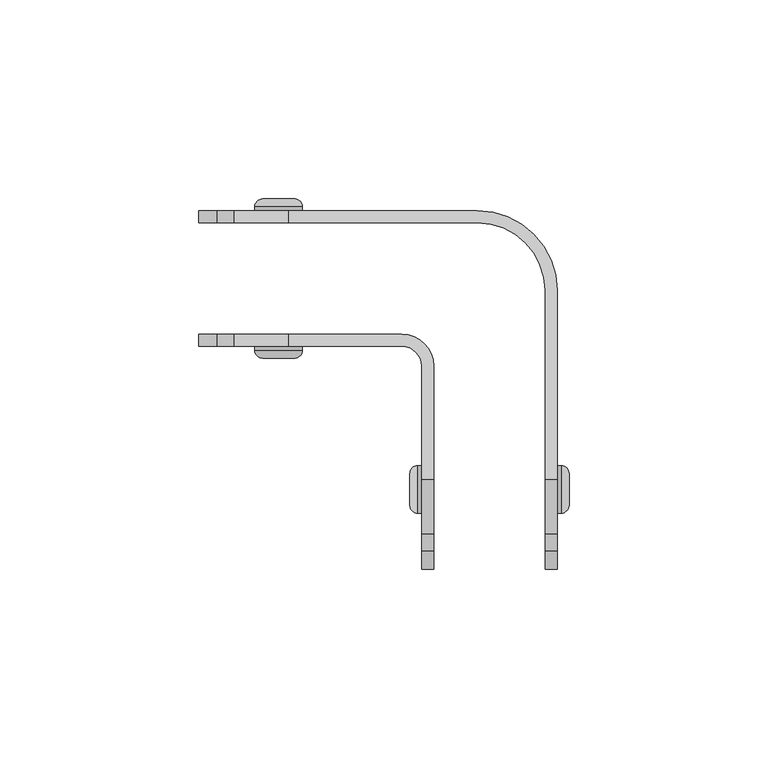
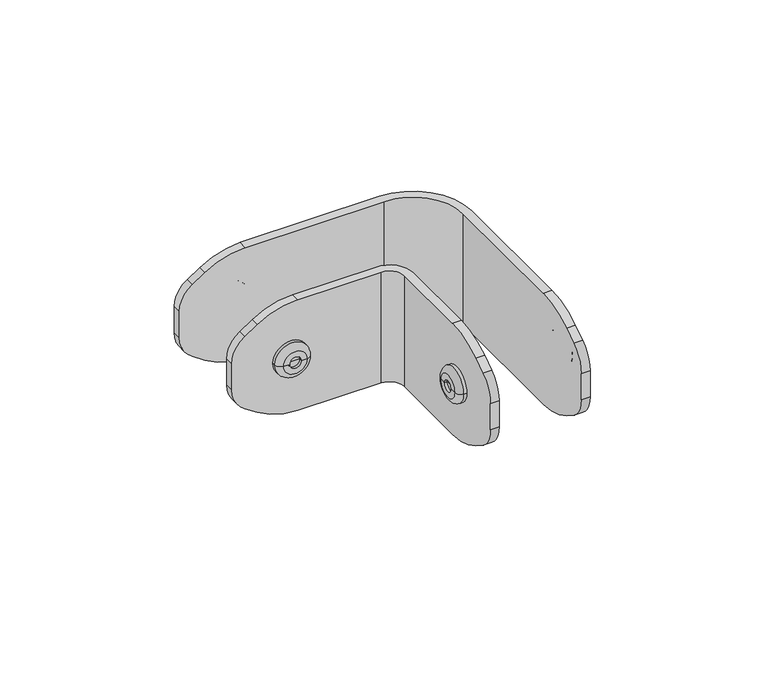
"""IFC4 building model written with IfcOpenShell, lengths in millimetres: furniture geometry, DBLTD_Sixteen3_PrivacyScreens_Artus_Bracket : 90° Corner Link."""

from ifc_helpers import new_model, si_unit, point, frame, origin, place, context, project, spatial, polyline, circle_curve, ellipse_curve, trimmed, source, transform, mapped, element, save
from ifc_brep_helpers import plane_surface, cylinder_surface, revolved_surface, advanced_brep


def furniture_77d4a9f0(model_context):
    return source(origin(), model_context, "Body", "AdvancedBrep", [
        advanced_brep(
        [(17.0, -867.0, 100.0), (17.9858199, -867.0, 100.0), (17.9858199, -879.0, 100.0), (17.0, -879.0, 100.0), (17.0, -873.0, 100.0), (19.0, -871.0, 100.0), (19.0, -873.0, 100.0), (19.0, -875.0, 100.0), (20.0, -871.0, 100.0), (20.0, -875.0, 100.0), (20.0, -869.0141801, 100.0), (20.0, -876.9858199, 100.0)],
        [
            (0, 1),
            (1, 2, circle_curve(frame((17.9858199, -873.0, 100.0), z_axis=(-1.0, 0.0, 0.0), x_axis=(0.0, -1.0, 0.0)), 6.0)),
            (2, 3),
            (3, 0, circle_curve(frame((17.0, -873.0, 100.0), z_axis=(1.0, 0.0, 0.0), x_axis=(0.0, -1.0, 0.0)), 6.0)),
            (2, 1, circle_curve(frame((17.9858199, -873.0, 100.0), z_axis=(-1.0, 0.0, 0.0), x_axis=(0.0, -1.0, 0.0)), 6.0)),
            (0, 3, circle_curve(frame((17.0, -873.0, 100.0), z_axis=(1.0, 0.0, 0.0), x_axis=(0.0, -1.0, 0.0)), 6.0)),
            (4, 0),
            (3, 4),
            (5, 6),
            (6, 7),
            (7, 5, circle_curve(frame((19.0, -873.0, 100.0), z_axis=(1.0, 0.0, 0.0), x_axis=(0.0, -1.0, 0.0)), 2.0)),
            (5, 7, circle_curve(frame((19.0, -873.0, 100.0), z_axis=(1.0, 0.0, 0.0), x_axis=(0.0, -1.0, 0.0)), 2.0)),
            (8, 5),
            (7, 9),
            (9, 8, circle_curve(frame((20.0, -873.0, 100.0), z_axis=(1.0, 0.0, 0.0), x_axis=(0.0, -1.0, 0.0)), 2.0)),
            (8, 9, circle_curve(frame((20.0, -873.0, 100.0), z_axis=(1.0, 0.0, 0.0), x_axis=(0.0, -1.0, 0.0)), 2.0)),
            (10, 8),
            (9, 11),
            (11, 10, circle_curve(frame((20.0, -873.0, 100.0), z_axis=(1.0, 0.0, 0.0), x_axis=(0.0, -1.0, 0.0)), 3.9858199)),
            (10, 11, circle_curve(frame((20.0, -873.0, 100.0), z_axis=(1.0, 0.0, 0.0), x_axis=(0.0, -1.0, 0.0)), 3.9858199)),
            (1, 10, circle_curve(frame((17.9858199, -869.0141801, 100.0), z_axis=(0.0, 0.0, -1.0), x_axis=(0.0, -1.0, 0.0)), 2.0141801)),
            (11, 2, circle_curve(frame((17.9858199, -876.9858199, 100.0), z_axis=(0.0, 0.0, -1.0), x_axis=(0.0, 1.0, 0.0)), 2.0141801)),
        ],
        [
            cylinder_surface(frame((18.424474, -873.0, 100.0), z_axis=(-1.0, 0.0, 0.0), x_axis=(0.0, -1.0, 0.0)), 6.0),
            plane_surface(frame((17.0, -873.0, 100.0), z_axis=(-1.0, 0.0, 0.0), x_axis=(0.0, -1.0, 0.0))),
            plane_surface(frame((19.0, -873.0, 100.0), z_axis=(1.0, 0.0, 0.0), x_axis=(0.0, -1.0, 0.0))),
            revolved_surface(polyline([(19.0, -875.0, 100.0), (20.0, -875.0, 100.0)]), (18.424474, -873.0, 100.0), (-1.0, 0.0, 0.0)),
            plane_surface(frame((20.0, -873.0, 100.0), z_axis=(1.0, 0.0, 0.0), x_axis=(0.0, -1.0, 0.0))),
            revolved_surface(trimmed(ellipse_curve(frame((17.9858199, -876.9858199, 100.0), z_axis=(0.0, 0.0, -1.0), x_axis=(0.0, 1.0, 0.0)), 2.0141801, 2.0141801), [point((20.0, -876.9858199, 100.0))], [point((17.9858199, -879.0, 100.0))], True, "CARTESIAN"), (18.424474, -873.0, 100.0), (-1.0, 0.0, 0.0)),
        ],
        [
            (0, [[1, 2, 3, 4]]),
            (0, [[-3, 5, -1, 6]]),
            (1, [[7, -4, 8]]),
            (1, [[-8, -6, -7]]),
            (2, [[9, 10, 11]]),
            (2, [[-10, -9, 12]]),
            (3, [[13, -11, 14, 15]]),
            (3, [[-14, -12, -13, 16]]),
            (4, [[17, -15, 18, 19]]),
            (4, [[-18, -16, -17, 20]]),
            (5, [[21, -19, 22, -2]]),
            (5, [[-22, -20, -21, -5]]),
        ],
    ),
        advanced_brep(
        [(-17.9858199, -867.0, 100.0), (-17.0, -867.0, 100.0), (-17.0, -879.0, 100.0), (-17.9858199, -879.0, 100.0), (-17.0, -873.0, 100.0), (-19.0, -873.0, 100.0), (-19.0, -871.0, 100.0), (-19.0, -875.0, 100.0), (-20.0, -871.0, 100.0), (-20.0, -875.0, 100.0), (-20.0, -869.0141801, 100.0), (-20.0, -876.9858199, 100.0)],
        [
            (0, 1),
            (1, 2, circle_curve(frame((-17.0, -873.0, 100.0), z_axis=(-1.0, 0.0, 0.0), x_axis=(0.0, -1.0, 0.0)), 6.0)),
            (2, 3),
            (3, 0, circle_curve(frame((-17.9858199, -873.0, 100.0), z_axis=(1.0, 0.0, 0.0), x_axis=(0.0, -1.0, 0.0)), 6.0)),
            (2, 1, circle_curve(frame((-17.0, -873.0, 100.0), z_axis=(-1.0, 0.0, 0.0), x_axis=(0.0, -1.0, 0.0)), 6.0)),
            (0, 3, circle_curve(frame((-17.9858199, -873.0, 100.0), z_axis=(1.0, 0.0, 0.0), x_axis=(0.0, -1.0, 0.0)), 6.0)),
            (1, 4),
            (4, 2),
            (5, 6),
            (6, 7, circle_curve(frame((-19.0, -873.0, 100.0), z_axis=(-1.0, 0.0, 0.0), x_axis=(0.0, -1.0, 0.0)), 2.0)),
            (7, 5),
            (7, 6, circle_curve(frame((-19.0, -873.0, 100.0), z_axis=(-1.0, 0.0, 0.0), x_axis=(0.0, -1.0, 0.0)), 2.0)),
            (6, 8),
            (8, 9, circle_curve(frame((-20.0, -873.0, 100.0), z_axis=(-1.0, 0.0, 0.0), x_axis=(0.0, -1.0, 0.0)), 2.0)),
            (9, 7),
            (9, 8, circle_curve(frame((-20.0, -873.0, 100.0), z_axis=(-1.0, 0.0, 0.0), x_axis=(0.0, -1.0, 0.0)), 2.0)),
            (8, 10),
            (10, 11, circle_curve(frame((-20.0, -873.0, 100.0), z_axis=(-1.0, 0.0, 0.0), x_axis=(0.0, -1.0, 0.0)), 3.9858199)),
            (11, 9),
            (11, 10, circle_curve(frame((-20.0, -873.0, 100.0), z_axis=(-1.0, 0.0, 0.0), x_axis=(0.0, -1.0, 0.0)), 3.9858199)),
            (10, 0, circle_curve(frame((-17.9858199, -869.0141801, 100.0), z_axis=(0.0, 0.0, -1.0), x_axis=(0.0, -1.0, 0.0)), 2.0141801)),
            (3, 11, circle_curve(frame((-17.9858199, -876.9858199, 100.0), z_axis=(0.0, 0.0, -1.0), x_axis=(0.0, 1.0, 0.0)), 2.0141801)),
        ],
        [
            cylinder_surface(frame((-18.424474, -873.0, 100.0), z_axis=(-1.0, 0.0, 0.0), x_axis=(0.0, -1.0, 0.0)), 6.0),
            plane_surface(frame((-17.0, -873.0, 100.0), z_axis=(1.0, 0.0, 0.0), x_axis=(0.0, -1.0, 0.0))),
            plane_surface(frame((-19.0, -873.0, 100.0), z_axis=(-1.0, 0.0, 0.0), x_axis=(0.0, -1.0, 0.0))),
            revolved_surface(polyline([(-20.0, -875.0, 100.0), (-19.0, -875.0, 100.0)]), (-18.424474, -873.0, 100.0), (-1.0, 0.0, 0.0)),
            plane_surface(frame((-20.0, -873.0, 100.0), z_axis=(-1.0, 0.0, 0.0), x_axis=(0.0, -1.0, 0.0))),
            revolved_surface(trimmed(ellipse_curve(frame((-17.9858199, -876.9858199, 100.0), z_axis=(0.0, 0.0, -1.0), x_axis=(0.0, 1.0, 0.0)), 2.0141801, 2.0141801), [point((-17.9858199, -879.0, 100.0))], [point((-20.0, -876.9858199, 100.0))], True, "CARTESIAN"), (-18.424474, -873.0, 100.0), (-1.0, 0.0, 0.0)),
        ],
        [
            (0, [[1, 2, 3, 4]]),
            (0, [[-3, 5, -1, 6]]),
            (1, [[7, 8, -2]]),
            (1, [[-8, -7, -5]]),
            (2, [[9, 10, 11]]),
            (2, [[-11, 12, -9]]),
            (3, [[13, 14, 15, -10]]),
            (3, [[-15, 16, -13, -12]]),
            (4, [[17, 18, 19, -14]]),
            (4, [[-19, 20, -17, -16]]),
            (5, [[21, -4, 22, -18]]),
            (5, [[-22, -6, -21, -20]]),
        ],
    ),
        advanced_brep(
        [(-47.0, -802.0141801, 100.0), (-47.0, -803.0, 100.0), (-59.0, -803.0, 100.0), (-59.0, -802.0141801, 100.0), (-53.0, -803.0, 100.0), (-53.0, -801.0, 100.0), (-51.0, -801.0, 100.0), (-55.0, -801.0, 100.0), (-51.0, -800.0, 100.0), (-55.0, -800.0, 100.0), (-49.0141801, -800.0, 100.0), (-56.9858199, -800.0, 100.0)],
        [
            (0, 1),
            (1, 2, circle_curve(frame((-53.0, -803.0, 100.0), z_axis=(0.0, 1.0, 0.0), x_axis=(-1.0, 0.0, 0.0)), 6.0)),
            (2, 3),
            (3, 0, circle_curve(frame((-53.0, -802.0141801, 100.0), z_axis=(0.0, -1.0, 0.0), x_axis=(-1.0, 0.0, 0.0)), 6.0)),
            (2, 1, circle_curve(frame((-53.0, -803.0, 100.0), z_axis=(0.0, 1.0, 0.0), x_axis=(-1.0, 0.0, 0.0)), 6.0)),
            (0, 3, circle_curve(frame((-53.0, -802.0141801, 100.0), z_axis=(0.0, -1.0, 0.0), x_axis=(-1.0, 0.0, 0.0)), 6.0)),
            (1, 4),
            (4, 2),
            (5, 6),
            (6, 7, circle_curve(frame((-53.0, -801.0, 100.0), z_axis=(0.0, 1.0, 0.0), x_axis=(-1.0, 0.0, 0.0)), 2.0)),
            (7, 5),
            (7, 6, circle_curve(frame((-53.0, -801.0, 100.0), z_axis=(0.0, 1.0, 0.0), x_axis=(-1.0, 0.0, 0.0)), 2.0)),
            (6, 8),
            (8, 9, circle_curve(frame((-53.0, -800.0, 100.0), z_axis=(0.0, 1.0, 0.0), x_axis=(-1.0, 0.0, 0.0)), 2.0)),
            (9, 7),
            (9, 8, circle_curve(frame((-53.0, -800.0, 100.0), z_axis=(0.0, 1.0, 0.0), x_axis=(-1.0, 0.0, 0.0)), 2.0)),
            (8, 10),
            (10, 11, circle_curve(frame((-53.0, -800.0, 100.0), z_axis=(0.0, 1.0, 0.0), x_axis=(-1.0, 0.0, 0.0)), 3.9858199)),
            (11, 9),
            (11, 10, circle_curve(frame((-53.0, -800.0, 100.0), z_axis=(0.0, 1.0, 0.0), x_axis=(-1.0, 0.0, 0.0)), 3.9858199)),
            (10, 0, circle_curve(frame((-49.0141801, -802.0141801, 100.0), z_axis=(0.0, 0.0, -1.0), x_axis=(-1.0, 0.0, 0.0)), 2.0141801)),
            (3, 11, circle_curve(frame((-56.9858199, -802.0141801, 100.0), z_axis=(0.0, 0.0, -1.0), x_axis=(1.0, 0.0, 0.0)), 2.0141801)),
        ],
        [
            cylinder_surface(frame((-53.0, -801.575526, 100.0), z_axis=(0.0, 1.0, 0.0), x_axis=(-1.0, 0.0, 0.0)), 6.0),
            plane_surface(frame((-53.0, -803.0, 100.0), z_axis=(0.0, -1.0, 0.0), x_axis=(-1.0, 0.0, 0.0))),
            plane_surface(frame((-53.0, -801.0, 100.0), z_axis=(0.0, 1.0, 0.0), x_axis=(-1.0, 0.0, 0.0))),
            revolved_surface(polyline([(-55.0, -800.0, 100.0), (-55.0, -801.0, 100.0)]), (-53.0, -801.575526, 100.0), (0.0, 1.0, 0.0)),
            plane_surface(frame((-53.0, -800.0, 100.0), z_axis=(0.0, 1.0, 0.0), x_axis=(-1.0, 0.0, 0.0))),
            revolved_surface(trimmed(ellipse_curve(frame((-56.9858199, -802.0141801, 100.0), z_axis=(0.0, 0.0, -1.0), x_axis=(1.0, 0.0, 0.0)), 2.0141801, 2.0141801), [point((-59.0, -802.0141801, 100.0))], [point((-56.9858199, -800.0, 100.0))], True, "CARTESIAN"), (-53.0, -801.575526, 100.0), (0.0, 1.0, 0.0)),
        ],
        [
            (0, [[1, 2, 3, 4]]),
            (0, [[-3, 5, -1, 6]]),
            (1, [[7, 8, -2]]),
            (1, [[-8, -7, -5]]),
            (2, [[9, 10, 11]]),
            (2, [[-11, 12, -9]]),
            (3, [[13, 14, 15, -10]]),
            (3, [[-15, 16, -13, -12]]),
            (4, [[17, 18, 19, -14]]),
            (4, [[-19, 20, -17, -16]]),
            (5, [[21, -4, 22, -18]]),
            (5, [[-22, -6, -21, -20]]),
        ],
    ),
        advanced_brep(
        [(-47.0, -837.0, 100.0), (-47.0, -837.9858199, 100.0), (-59.0, -837.9858199, 100.0), (-59.0, -837.0, 100.0), (-53.0, -837.0, 100.0), (-51.0, -839.0, 100.0), (-53.0, -839.0, 100.0), (-55.0, -839.0, 100.0), (-51.0, -840.0, 100.0), (-55.0, -840.0, 100.0), (-49.0141801, -840.0, 100.0), (-56.9858199, -840.0, 100.0)],
        [
            (0, 1),
            (1, 2, circle_curve(frame((-53.0, -837.9858199, 100.0), z_axis=(0.0, 1.0, 0.0), x_axis=(-1.0, 0.0, 0.0)), 6.0)),
            (2, 3),
            (3, 0, circle_curve(frame((-53.0, -837.0, 100.0), z_axis=(0.0, -1.0, 0.0), x_axis=(-1.0, 0.0, 0.0)), 6.0)),
            (2, 1, circle_curve(frame((-53.0, -837.9858199, 100.0), z_axis=(0.0, 1.0, 0.0), x_axis=(-1.0, 0.0, 0.0)), 6.0)),
            (0, 3, circle_curve(frame((-53.0, -837.0, 100.0), z_axis=(0.0, -1.0, 0.0), x_axis=(-1.0, 0.0, 0.0)), 6.0)),
            (4, 0),
            (3, 4),
            (5, 6),
            (6, 7),
            (7, 5, circle_curve(frame((-53.0, -839.0, 100.0), z_axis=(0.0, -1.0, 0.0), x_axis=(-1.0, 0.0, 0.0)), 2.0)),
            (5, 7, circle_curve(frame((-53.0, -839.0, 100.0), z_axis=(0.0, -1.0, 0.0), x_axis=(-1.0, 0.0, 0.0)), 2.0)),
            (8, 5),
            (7, 9),
            (9, 8, circle_curve(frame((-53.0, -840.0, 100.0), z_axis=(0.0, -1.0, 0.0), x_axis=(-1.0, 0.0, 0.0)), 2.0)),
            (8, 9, circle_curve(frame((-53.0, -840.0, 100.0), z_axis=(0.0, -1.0, 0.0), x_axis=(-1.0, 0.0, 0.0)), 2.0)),
            (10, 8),
            (9, 11),
            (11, 10, circle_curve(frame((-53.0, -840.0, 100.0), z_axis=(0.0, -1.0, 0.0), x_axis=(-1.0, 0.0, 0.0)), 3.9858199)),
            (10, 11, circle_curve(frame((-53.0, -840.0, 100.0), z_axis=(0.0, -1.0, 0.0), x_axis=(-1.0, 0.0, 0.0)), 3.9858199)),
            (1, 10, circle_curve(frame((-49.0141801, -837.9858199, 100.0), z_axis=(0.0, 0.0, -1.0), x_axis=(-1.0, 0.0, 0.0)), 2.0141801)),
            (11, 2, circle_curve(frame((-56.9858199, -837.9858199, 100.0), z_axis=(0.0, 0.0, -1.0), x_axis=(1.0, 0.0, 0.0)), 2.0141801)),
        ],
        [
            cylinder_surface(frame((-53.0, -838.424474, 100.0), z_axis=(0.0, 1.0, 0.0), x_axis=(-1.0, 0.0, 0.0)), 6.0),
            plane_surface(frame((-53.0, -837.0, 100.0), z_axis=(0.0, 1.0, 0.0), x_axis=(-1.0, 0.0, 0.0))),
            plane_surface(frame((-53.0, -839.0, 100.0), z_axis=(0.0, -1.0, 0.0), x_axis=(-1.0, 0.0, 0.0))),
            revolved_surface(polyline([(-55.0, -839.0, 100.0), (-55.0, -840.0, 100.0)]), (-53.0, -838.424474, 100.0), (0.0, 1.0, 0.0)),
            plane_surface(frame((-53.0, -840.0, 100.0), z_axis=(0.0, -1.0, 0.0), x_axis=(-1.0, 0.0, 0.0))),
            revolved_surface(trimmed(ellipse_curve(frame((-56.9858199, -837.9858199, 100.0), z_axis=(0.0, 0.0, -1.0), x_axis=(1.0, 0.0, 0.0)), 2.0141801, 2.0141801), [point((-56.9858199, -840.0, 100.0))], [point((-59.0, -837.9858199, 100.0))], True, "CARTESIAN"), (-53.0, -838.424474, 100.0), (0.0, 1.0, 0.0)),
        ],
        [
            (0, [[1, 2, 3, 4]]),
            (0, [[-3, 5, -1, 6]]),
            (1, [[7, -4, 8]]),
            (1, [[-8, -6, -7]]),
            (2, [[9, 10, 11]]),
            (2, [[-10, -9, 12]]),
            (3, [[13, -11, 14, 15]]),
            (3, [[-14, -12, -13, 16]]),
            (4, [[17, -15, 18, 19]]),
            (4, [[-18, -16, -17, 20]]),
            (5, [[21, -19, 22, -2]]),
            (5, [[-22, -20, -21, -5]]),
        ],
    ),
        advanced_brep(
        [(14.0, -823.0, 120.0), (14.0, -870.4306091, 120.0), (17.0, -870.4306091, 120.0), (17.0, -823.0, 120.0), (-3.0, -803.0, 120.0), (-50.4306091, -803.0, 120.0), (-50.4306091, -806.0, 120.0), (-3.0, -806.0, 120.0), (17.0, -823.0, 80.0), (17.0, -870.4306091, 80.0), (14.0, -870.4306091, 80.0), (14.0, -823.0, 80.0), (-3.0, -806.0, 80.0), (-50.4306091, -806.0, 80.0), (-50.4306091, -803.0, 80.0), (-3.0, -803.0, 80.0), (-64.298114, -806.0, 115.8012574), (-68.547002, -806.0, 112.9686654), (-73.0, -806.0, 104.6481624), (-73.0, -806.0, 95.3518376), (-68.547002, -806.0, 87.0313346), (-64.298114, -806.0, 84.1987426), (-73.0, -803.0, 104.6481624), (-73.0, -803.0, 95.3518376), (-64.298114, -803.0, 84.1987426), (-68.547002, -803.0, 87.0313346), (-68.547002, -803.0, 112.9686654), (-64.298114, -803.0, 115.8012574), (17.0, -884.298114, 115.8012574), (17.0, -888.547002, 112.9686654), (17.0, -893.0, 104.6481624), (17.0, -893.0, 95.3518376), (17.0, -888.547002, 87.0313346), (17.0, -884.298114, 84.1987426), (14.0, -893.0, 104.6481624), (14.0, -893.0, 95.3518376), (14.0, -884.298114, 84.1987426), (14.0, -888.547002, 87.0313346), (14.0, -888.547002, 112.9686654), (14.0, -884.298114, 115.8012574)],
        [
            (0, 1),
            (1, 2),
            (2, 3),
            (3, 4, circle_curve(frame((-3.0, -823.0, 120.0), z_axis=(0.0, 0.0, 1.0), x_axis=(1.0, 0.0, 0.0)), 20.0)),
            (4, 5),
            (5, 6),
            (6, 7),
            (7, 0, circle_curve(frame((-3.0, -823.0, 120.0), z_axis=(0.0, 0.0, -1.0), x_axis=(1.0, 0.0, 0.0)), 17.0)),
            (8, 9),
            (9, 10),
            (10, 11),
            (11, 12, circle_curve(frame((-3.0, -823.0, 80.0), z_axis=(0.0, 0.0, 1.0), x_axis=(1.0, 0.0, 0.0)), 17.0)),
            (12, 13),
            (13, 14),
            (14, 15),
            (15, 8, circle_curve(frame((-3.0, -823.0, 80.0), z_axis=(0.0, 0.0, -1.0), x_axis=(1.0, 0.0, 0.0)), 20.0)),
            (7, 12),
            (11, 0),
            (6, 16, circle_curve(frame((-50.4306091, -806.0, 95.0), z_axis=(0.0, -1.0, 0.0), x_axis=(1.0, 0.0, 0.0)), 25.0)),
            (16, 17),
            (17, 18, circle_curve(frame((-63.0, -806.0, 104.6481624), z_axis=(0.0, -1.0, 0.0), x_axis=(1.0, 0.0, 0.0)), 10.0)),
            (18, 19),
            (19, 20, circle_curve(frame((-63.0, -806.0, 95.3518376), z_axis=(0.0, -1.0, 0.0), x_axis=(1.0, 0.0, 0.0)), 10.0)),
            (20, 21),
            (21, 13, circle_curve(frame((-50.4306091, -806.0, 105.0), z_axis=(0.0, -1.0, 0.0), x_axis=(1.0, 0.0, 0.0)), 25.0)),
            (18, 22),
            (22, 23),
            (23, 19),
            (14, 24, circle_curve(frame((-50.4306091, -803.0, 105.0), z_axis=(0.0, 1.0, 0.0), x_axis=(1.0, 0.0, 0.0)), 25.0)),
            (24, 25),
            (25, 23, circle_curve(frame((-63.0, -803.0, 95.3518376), z_axis=(0.0, 1.0, 0.0), x_axis=(1.0, 0.0, 0.0)), 10.0)),
            (22, 26, circle_curve(frame((-63.0, -803.0, 104.6481624), z_axis=(0.0, 1.0, 0.0), x_axis=(1.0, 0.0, 0.0)), 10.0)),
            (26, 27),
            (27, 5, circle_curve(frame((-50.4306091, -803.0, 95.0), z_axis=(0.0, 1.0, 0.0), x_axis=(1.0, 0.0, 0.0)), 25.0)),
            (4, 15),
            (3, 8),
            (2, 28, circle_curve(frame((17.0, -870.4306091, 95.0), z_axis=(1.0, 0.0, 0.0), x_axis=(0.0, 1.0, 0.0)), 25.0)),
            (28, 29),
            (29, 30, circle_curve(frame((17.0, -883.0, 104.6481624), z_axis=(1.0, 0.0, 0.0), x_axis=(0.0, 1.0, 0.0)), 10.0)),
            (30, 31),
            (31, 32, circle_curve(frame((17.0, -883.0, 95.3518376), z_axis=(1.0, 0.0, 0.0), x_axis=(0.0, 1.0, 0.0)), 10.0)),
            (32, 33),
            (33, 9, circle_curve(frame((17.0, -870.4306091, 105.0), z_axis=(1.0, 0.0, 0.0), x_axis=(0.0, 1.0, 0.0)), 25.0)),
            (30, 34),
            (34, 35),
            (35, 31),
            (10, 36, circle_curve(frame((14.0, -870.4306091, 105.0), z_axis=(-1.0, 0.0, 0.0), x_axis=(0.0, 1.0, 0.0)), 25.0)),
            (36, 37),
            (37, 35, circle_curve(frame((14.0, -883.0, 95.3518376), z_axis=(-1.0, 0.0, 0.0), x_axis=(0.0, 1.0, 0.0)), 10.0)),
            (34, 38, circle_curve(frame((14.0, -883.0, 104.6481624), z_axis=(-1.0, 0.0, 0.0), x_axis=(0.0, 1.0, 0.0)), 10.0)),
            (38, 39),
            (39, 1, circle_curve(frame((14.0, -870.4306091, 95.0), z_axis=(-1.0, 0.0, 0.0), x_axis=(0.0, 1.0, 0.0)), 25.0)),
            (21, 24),
            (20, 25),
            (17, 26),
            (16, 27),
            (33, 36),
            (32, 37),
            (29, 38),
            (28, 39),
        ],
        [
            plane_surface(frame((14.0, -823.0, 120.0), z_axis=(0.0, 0.0, 1.0), x_axis=(0.0, 1.0, 0.0))),
            plane_surface(frame((14.0, -823.0, 80.0), z_axis=(0.0, 0.0, -1.0), x_axis=(0.0, -1.0, 0.0))),
            revolved_surface(polyline([(14.0, -823.0, 80.0), (14.0, -823.0, 120.0)]), (-3.0, -823.0, 80.0), (0.0, 0.0, -1.0)),
            plane_surface(frame((-3.0, -806.0, 120.0), z_axis=(0.0, -1.0, 0.0), x_axis=(0.0, 0.0, -1.0))),
            plane_surface(frame((-73.0, -806.0, 120.0), z_axis=(-1.0, 0.0, 0.0), x_axis=(0.0, 0.0, -1.0))),
            plane_surface(frame((-73.0, -803.0, 120.0), z_axis=(0.0, 1.0, 0.0), x_axis=(0.0, 0.0, -1.0))),
            cylinder_surface(frame((-3.0, -823.0, 80.0), z_axis=(0.0, 0.0, 1.0), x_axis=(1.0, 0.0, 0.0)), 20.0),
            plane_surface(frame((17.0, -823.0, 120.0), z_axis=(1.0, 0.0, 0.0), x_axis=(0.0, 0.0, -1.0))),
            plane_surface(frame((17.0, -893.0, 120.0), z_axis=(0.0, -1.0, 0.0), x_axis=(0.0, 0.0, -1.0))),
            plane_surface(frame((14.0, -893.0, 120.0), z_axis=(-1.0, 0.0, 0.0), x_axis=(0.0, 0.0, -1.0))),
            cylinder_surface(frame((-50.4306091, -837.0, 105.0), z_axis=(0.0, -1.0, 0.0), x_axis=(1.0, 0.0, 0.0)), 25.0),
            plane_surface(frame((-64.298114, -803.0, 84.1987426), z_axis=(-0.5547001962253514, 0.0, -0.8320502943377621), x_axis=(0.0, -1.0, 0.0))),
            cylinder_surface(frame((-63.0, -837.0, 95.3518376), z_axis=(0.0, -1.0, 0.0), x_axis=(1.0, 0.0, 0.0)), 10.0),
            cylinder_surface(frame((-63.0, 0.0, 104.6481624), z_axis=(0.0, -1.0, 0.0), x_axis=(1.0, 0.0, 0.0)), 10.0),
            plane_surface(frame((-68.547002, -803.0, 112.9686654), z_axis=(-0.5547001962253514, 0.0, 0.8320502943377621), x_axis=(0.0, -1.0, 0.0))),
            cylinder_surface(frame((-50.4306091, 0.0, 95.0), z_axis=(0.0, -1.0, 0.0), x_axis=(1.0, 0.0, 0.0)), 25.0),
            cylinder_surface(frame((-17.0, -870.4306091, 105.0), z_axis=(-1.0, 0.0, 0.0), x_axis=(0.0, 1.0, 0.0)), 25.0),
            plane_surface(frame((17.0, -888.547002, 87.0313346), z_axis=(0.0, -0.5547001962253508, -0.8320502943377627), x_axis=(-1.0, 0.0, 0.0))),
            cylinder_surface(frame((-17.0, -883.0, 95.3518376), z_axis=(-1.0, 0.0, 0.0), x_axis=(0.0, 1.0, 0.0)), 10.0),
            cylinder_surface(frame((820.0, -883.0, 104.6481624), z_axis=(-1.0, 0.0, 0.0), x_axis=(0.0, 1.0, 0.0)), 10.0),
            plane_surface(frame((17.0, -884.298114, 115.8012574), z_axis=(0.0, -0.5547001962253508, 0.8320502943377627), x_axis=(-1.0, 0.0, 0.0))),
            cylinder_surface(frame((820.0, -870.4306091, 95.0), z_axis=(-1.0, 0.0, 0.0), x_axis=(0.0, 1.0, 0.0)), 25.0),
        ],
        [
            (0, [[1, 2, 3, 4, 5, 6, 7, 8]]),
            (1, [[9, 10, 11, 12, 13, 14, 15, 16]]),
            (2, [[17, -12, 18, -8]]),
            (3, [[-7, 19, 20, 21, 22, 23, 24, 25, -13, -17]]),
            (4, [[26, 27, 28, -22]]),
            (5, [[-15, 29, 30, 31, -27, 32, 33, 34, -5, 35]]),
            (6, [[36, -16, -35, -4]]),
            (7, [[-3, 37, 38, 39, 40, 41, 42, 43, -9, -36]]),
            (8, [[44, 45, 46, -40]]),
            (9, [[-11, 47, 48, 49, -45, 50, 51, 52, -1, -18]]),
            (10, [[-29, -14, -25, 53]]),
            (11, [[-24, 54, -30, -53]]),
            (12, [[-23, -28, -31, -54]]),
            (13, [[-32, -26, -21, 55]]),
            (14, [[-20, 56, -33, -55]]),
            (15, [[-19, -6, -34, -56]]),
            (16, [[-47, -10, -43, 57]]),
            (17, [[-42, 58, -48, -57]]),
            (18, [[-41, -46, -49, -58]]),
            (19, [[-50, -44, -39, 59]]),
            (20, [[-38, 60, -51, -59]]),
            (21, [[-37, -2, -52, -60]]),
        ],
    ),
        advanced_brep(
        [(-17.0, -842.0, 120.0), (-17.0, -870.4306091, 120.0), (-14.0, -870.4306091, 120.0), (-14.0, -842.0, 120.0), (-22.0, -834.0, 120.0), (-50.4306091, -834.0, 120.0), (-50.4306091, -837.0, 120.0), (-22.0, -837.0, 120.0), (-14.0, -842.0, 80.0), (-14.0, -870.4306091, 80.0), (-17.0, -870.4306091, 80.0), (-17.0, -842.0, 80.0), (-22.0, -837.0, 80.0), (-50.4306091, -837.0, 80.0), (-50.4306091, -834.0, 80.0), (-22.0, -834.0, 80.0), (-64.298114, -837.0, 115.8012574), (-68.547002, -837.0, 112.9686654), (-73.0, -837.0, 104.6481624), (-73.0, -837.0, 95.3518376), (-68.547002, -837.0, 87.0313346), (-64.298114, -837.0, 84.1987426), (-73.0, -834.0, 104.6481624), (-73.0, -834.0, 95.3518376), (-64.298114, -834.0, 84.1987426), (-68.547002, -834.0, 87.0313346), (-68.547002, -834.0, 112.9686654), (-64.298114, -834.0, 115.8012574), (-14.0, -884.298114, 115.8012574), (-14.0, -888.547002, 112.9686654), (-14.0, -893.0, 104.6481624), (-14.0, -893.0, 95.3518376), (-14.0, -888.547002, 87.0313346), (-14.0, -884.298114, 84.1987426), (-17.0, -893.0, 104.6481624), (-17.0, -893.0, 95.3518376), (-17.0, -884.298114, 84.1987426), (-17.0, -888.547002, 87.0313346), (-17.0, -888.547002, 112.9686654), (-17.0, -884.298114, 115.8012574)],
        [
            (0, 1),
            (1, 2),
            (2, 3),
            (3, 4, circle_curve(frame((-22.0, -842.0, 120.0), z_axis=(0.0, 0.0, 1.0), x_axis=(1.0, 0.0, 0.0)), 8.0)),
            (4, 5),
            (5, 6),
            (6, 7),
            (7, 0, circle_curve(frame((-22.0, -842.0, 120.0), z_axis=(0.0, 0.0, -1.0), x_axis=(1.0, 0.0, 0.0)), 5.0)),
            (8, 9),
            (9, 10),
            (10, 11),
            (11, 12, circle_curve(frame((-22.0, -842.0, 80.0), z_axis=(0.0, 0.0, 1.0), x_axis=(1.0, 0.0, 0.0)), 5.0)),
            (12, 13),
            (13, 14),
            (14, 15),
            (15, 8, circle_curve(frame((-22.0, -842.0, 80.0), z_axis=(0.0, 0.0, -1.0), x_axis=(1.0, 0.0, 0.0)), 8.0)),
            (7, 12),
            (11, 0),
            (6, 16, circle_curve(frame((-50.4306091, -837.0, 95.0), z_axis=(0.0, -1.0, 0.0), x_axis=(1.0, 0.0, 0.0)), 25.0)),
            (16, 17),
            (17, 18, circle_curve(frame((-63.0, -837.0, 104.6481624), z_axis=(0.0, -1.0, 0.0), x_axis=(1.0, 0.0, 0.0)), 10.0)),
            (18, 19),
            (19, 20, circle_curve(frame((-63.0, -837.0, 95.3518376), z_axis=(0.0, -1.0, 0.0), x_axis=(1.0, 0.0, 0.0)), 10.0)),
            (20, 21),
            (21, 13, circle_curve(frame((-50.4306091, -837.0, 105.0), z_axis=(0.0, -1.0, 0.0), x_axis=(1.0, 0.0, 0.0)), 25.0)),
            (18, 22),
            (22, 23),
            (23, 19),
            (14, 24, circle_curve(frame((-50.4306091, -834.0, 105.0), z_axis=(0.0, 1.0, 0.0), x_axis=(1.0, 0.0, 0.0)), 25.0)),
            (24, 25),
            (25, 23, circle_curve(frame((-63.0, -834.0, 95.3518376), z_axis=(0.0, 1.0, 0.0), x_axis=(1.0, 0.0, 0.0)), 10.0)),
            (22, 26, circle_curve(frame((-63.0, -834.0, 104.6481624), z_axis=(0.0, 1.0, 0.0), x_axis=(1.0, 0.0, 0.0)), 10.0)),
            (26, 27),
            (27, 5, circle_curve(frame((-50.4306091, -834.0, 95.0), z_axis=(0.0, 1.0, 0.0), x_axis=(1.0, 0.0, 0.0)), 25.0)),
            (4, 15),
            (3, 8),
            (2, 28, circle_curve(frame((-14.0, -870.4306091, 95.0), z_axis=(1.0, 0.0, 0.0), x_axis=(0.0, 1.0, 0.0)), 25.0)),
            (28, 29),
            (29, 30, circle_curve(frame((-14.0, -883.0, 104.6481624), z_axis=(1.0, 0.0, 0.0), x_axis=(0.0, 1.0, 0.0)), 10.0)),
            (30, 31),
            (31, 32, circle_curve(frame((-14.0, -883.0, 95.3518376), z_axis=(1.0, 0.0, 0.0), x_axis=(0.0, 1.0, 0.0)), 10.0)),
            (32, 33),
            (33, 9, circle_curve(frame((-14.0, -870.4306091, 105.0), z_axis=(1.0, 0.0, 0.0), x_axis=(0.0, 1.0, 0.0)), 25.0)),
            (30, 34),
            (34, 35),
            (35, 31),
            (10, 36, circle_curve(frame((-17.0, -870.4306091, 105.0), z_axis=(-1.0, 0.0, 0.0), x_axis=(0.0, 1.0, 0.0)), 25.0)),
            (36, 37),
            (37, 35, circle_curve(frame((-17.0, -883.0, 95.3518376), z_axis=(-1.0, 0.0, 0.0), x_axis=(0.0, 1.0, 0.0)), 10.0)),
            (34, 38, circle_curve(frame((-17.0, -883.0, 104.6481624), z_axis=(-1.0, 0.0, 0.0), x_axis=(0.0, 1.0, 0.0)), 10.0)),
            (38, 39),
            (39, 1, circle_curve(frame((-17.0, -870.4306091, 95.0), z_axis=(-1.0, 0.0, 0.0), x_axis=(0.0, 1.0, 0.0)), 25.0)),
            (21, 24),
            (20, 25),
            (17, 26),
            (16, 27),
            (33, 36),
            (32, 37),
            (29, 38),
            (28, 39),
        ],
        [
            plane_surface(frame((-17.0, -842.0, 120.0), z_axis=(0.0, 0.0, 1.0), x_axis=(0.0, 1.0, 0.0))),
            plane_surface(frame((-17.0, -842.0, 80.0), z_axis=(0.0, 0.0, -1.0), x_axis=(0.0, -1.0, 0.0))),
            revolved_surface(polyline([(-17.0, -842.0, 80.0), (-17.0, -842.0, 120.0)]), (-22.0, -842.0, 80.0), (0.0, 0.0, -1.0)),
            plane_surface(frame((-22.0, -837.0, 120.0), z_axis=(0.0, -1.0, 0.0), x_axis=(0.0, 0.0, -1.0))),
            plane_surface(frame((-73.0, -837.0, 120.0), z_axis=(-1.0, 0.0, 0.0), x_axis=(0.0, 0.0, -1.0))),
            plane_surface(frame((-73.0, -834.0, 120.0), z_axis=(0.0, 1.0, 0.0), x_axis=(0.0, 0.0, -1.0))),
            cylinder_surface(frame((-22.0, -842.0, 80.0), z_axis=(0.0, 0.0, 1.0), x_axis=(1.0, 0.0, 0.0)), 8.0),
            plane_surface(frame((-14.0, -842.0, 120.0), z_axis=(1.0, 0.0, 0.0), x_axis=(0.0, 0.0, -1.0))),
            plane_surface(frame((-14.0, -893.0, 120.0), z_axis=(0.0, -1.0, 0.0), x_axis=(0.0, 0.0, -1.0))),
            plane_surface(frame((-17.0, -893.0, 120.0), z_axis=(-1.0, 0.0, 0.0), x_axis=(0.0, 0.0, -1.0))),
            cylinder_surface(frame((-50.4306091, -837.0, 105.0), z_axis=(0.0, -1.0, 0.0), x_axis=(1.0, 0.0, 0.0)), 25.0),
            plane_surface(frame((-64.298114, -803.0, 84.1987426), z_axis=(-0.5547001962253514, 0.0, -0.8320502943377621), x_axis=(0.0, -1.0, 0.0))),
            cylinder_surface(frame((-63.0, -837.0, 95.3518376), z_axis=(0.0, -1.0, 0.0), x_axis=(1.0, 0.0, 0.0)), 10.0),
            cylinder_surface(frame((-63.0, 0.0, 104.6481624), z_axis=(0.0, -1.0, 0.0), x_axis=(1.0, 0.0, 0.0)), 10.0),
            plane_surface(frame((-68.547002, -803.0, 112.9686654), z_axis=(-0.5547001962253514, 0.0, 0.8320502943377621), x_axis=(0.0, -1.0, 0.0))),
            cylinder_surface(frame((-50.4306091, 0.0, 95.0), z_axis=(0.0, -1.0, 0.0), x_axis=(1.0, 0.0, 0.0)), 25.0),
            cylinder_surface(frame((-17.0, -870.4306091, 105.0), z_axis=(-1.0, 0.0, 0.0), x_axis=(0.0, 1.0, 0.0)), 25.0),
            plane_surface(frame((17.0, -888.547002, 87.0313346), z_axis=(0.0, -0.5547001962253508, -0.8320502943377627), x_axis=(-1.0, 0.0, 0.0))),
            cylinder_surface(frame((-17.0, -883.0, 95.3518376), z_axis=(-1.0, 0.0, 0.0), x_axis=(0.0, 1.0, 0.0)), 10.0),
            cylinder_surface(frame((820.0, -883.0, 104.6481624), z_axis=(-1.0, 0.0, 0.0), x_axis=(0.0, 1.0, 0.0)), 10.0),
            plane_surface(frame((17.0, -884.298114, 115.8012574), z_axis=(0.0, -0.5547001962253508, 0.8320502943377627), x_axis=(-1.0, 0.0, 0.0))),
            cylinder_surface(frame((820.0, -870.4306091, 95.0), z_axis=(-1.0, 0.0, 0.0), x_axis=(0.0, 1.0, 0.0)), 25.0),
        ],
        [
            (0, [[1, 2, 3, 4, 5, 6, 7, 8]]),
            (1, [[9, 10, 11, 12, 13, 14, 15, 16]]),
            (2, [[17, -12, 18, -8]]),
            (3, [[-7, 19, 20, 21, 22, 23, 24, 25, -13, -17]]),
            (4, [[26, 27, 28, -22]]),
            (5, [[-15, 29, 30, 31, -27, 32, 33, 34, -5, 35]]),
            (6, [[36, -16, -35, -4]]),
            (7, [[-3, 37, 38, 39, 40, 41, 42, 43, -9, -36]]),
            (8, [[44, 45, 46, -40]]),
            (9, [[-11, 47, 48, 49, -45, 50, 51, 52, -1, -18]]),
            (10, [[-29, -14, -25, 53]]),
            (11, [[-24, 54, -30, -53]]),
            (12, [[-23, -28, -31, -54]]),
            (13, [[-32, -26, -21, 55]]),
            (14, [[-20, 56, -33, -55]]),
            (15, [[-19, -6, -34, -56]]),
            (16, [[-47, -10, -43, 57]]),
            (17, [[-42, 58, -48, -57]]),
            (18, [[-41, -46, -49, -58]]),
            (19, [[-50, -44, -39, 59]]),
            (20, [[-38, 60, -51, -59]]),
            (21, [[-37, -2, -52, -60]]),
        ],
    ),
    ])


if __name__ == "__main__":
    model = new_model("IFC4")
    model_context = context("Model", 3, world=origin())
    ifc_project = project(units=[si_unit("LENGTHUNIT", "METRE", prefix="MILLI")], contexts=[model_context])
    site = spatial("IfcSite", under=ifc_project)
    building = spatial("IfcBuilding", under=site)
    placement = place(None, origin())
    furniture_shape = furniture_77d4a9f0(model_context)
    element("IfcFurniture", 1, ObjectType="DBLTD_Sixteen3_PrivacyScreens_Artus_Bracket : 90° Corner Link", at=placement, inside=building, context=model_context, shape_type="MappedRepresentation", body=[
        mapped(furniture_shape, transform((0.0, 0.0, 0.0), x_axis=(1.0, 0.0, 0.0), y_axis=(0.0, 1.0, 0.0), z_axis=(0.0, 0.0, 1.0))),
    ])
    save(model, "model.ifc")
